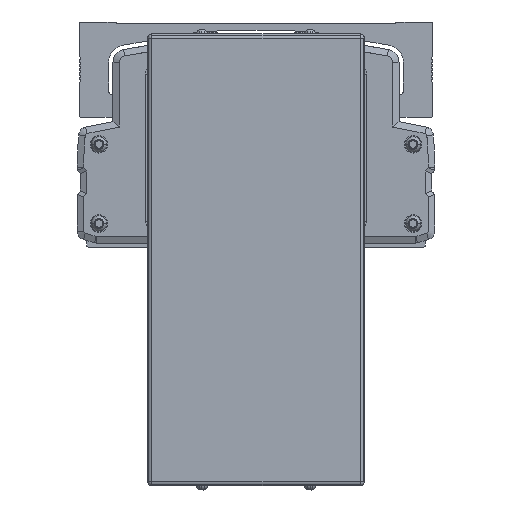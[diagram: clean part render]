
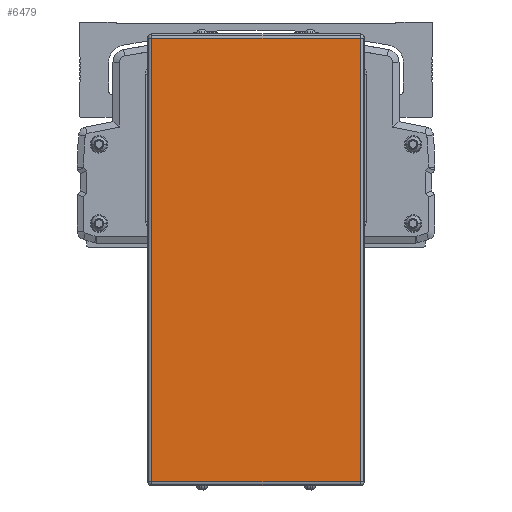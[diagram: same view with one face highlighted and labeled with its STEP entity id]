
A CAD part, front view. The second image highlights one B-rep face of the part: STEP entity #6479.
In plain terms, the highlighted planar face has unit normal (0, -1, 0).
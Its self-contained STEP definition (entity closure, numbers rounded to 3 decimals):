
#6479=ADVANCED_FACE('',(#13049),#13050,.T.);
#13049=FACE_OUTER_BOUND('',#21932,.T.);
#13050=PLANE('',#21933);
#21932=EDGE_LOOP('',(#40956,#40957,#40958,#40959));
#21933=AXIS2_PLACEMENT_3D('',#40960,#40961,#40962);
#40956=ORIENTED_EDGE('',*,*,#44043,.F.);
#40957=ORIENTED_EDGE('',*,*,#46118,.F.);
#40958=ORIENTED_EDGE('',*,*,#44217,.F.);
#40959=ORIENTED_EDGE('',*,*,#48024,.F.);
#40960=CARTESIAN_POINT('',(-600.,127.222,-57.8));
#40961=DIRECTION('',(0.,-1.0,0.));
#40962=DIRECTION('',(0.,0.,-1.0));
#44043=EDGE_CURVE('',#53549,#53570,#53571,.T.);
#44217=EDGE_CURVE('',#53838,#53840,#53841,.T.);
#46118=EDGE_CURVE('',#53840,#53549,#56667,.T.);
#48024=EDGE_CURVE('',#53570,#53838,#59090,.T.);
#53549=VERTEX_POINT('',#66897);
#53570=VERTEX_POINT('',#66935);
#53571=LINE('',#66936,#66937);
#53838=VERTEX_POINT('',#67329);
#53840=VERTEX_POINT('',#67331);
#53841=LINE('',#67332,#67333);
#56667=LINE('',#71701,#71702);
#59090=LINE('',#75262,#75263);
#66897=CARTESIAN_POINT('',(-648.,127.222,44.5));
#66935=CARTESIAN_POINT('',(-552.,127.222,44.5));
#66936=CARTESIAN_POINT('',(-600.,127.222,44.5));
#66937=VECTOR('',#79893,10.0);
#67329=CARTESIAN_POINT('',(-552.,127.222,-160.1));
#67331=CARTESIAN_POINT('',(-648.,127.222,-160.1));
#67332=CARTESIAN_POINT('',(-600.,127.222,-160.1));
#67333=VECTOR('',#80085,10.0);
#71701=CARTESIAN_POINT('',(-648.,127.222,-57.8));
#71702=VECTOR('',#82391,10.0);
#75262=CARTESIAN_POINT('',(-552.,127.222,-57.8));
#75263=VECTOR('',#84403,10.0);
#79893=DIRECTION('',(1.0,0.,0.));
#80085=DIRECTION('',(-1.0,0.,0.));
#82391=DIRECTION('',(0.,0.,1.0));
#84403=DIRECTION('',(0.,0.,-1.0));
